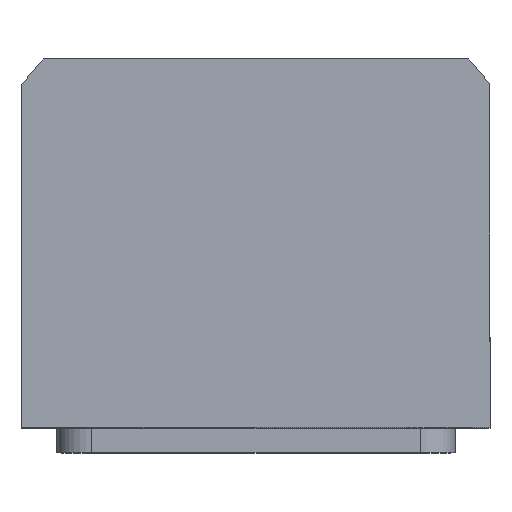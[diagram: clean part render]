
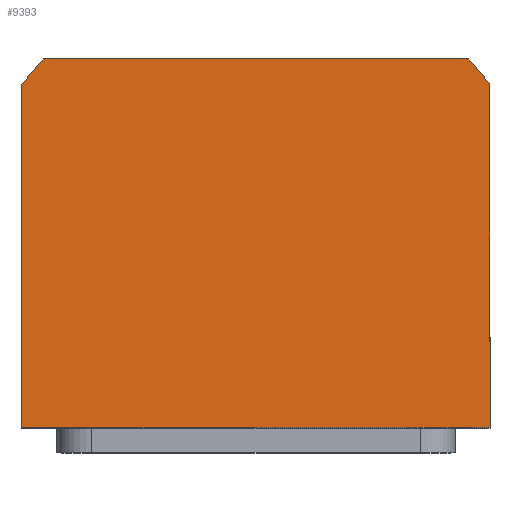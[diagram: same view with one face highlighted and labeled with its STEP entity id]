
A CAD part, top view. The second image highlights one B-rep face of the part: STEP entity #9393.
In plain terms, the highlighted planar face has unit normal (0, 0, 1).
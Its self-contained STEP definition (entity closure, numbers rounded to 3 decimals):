
#778 = ORIENTED_EDGE ( 'NONE', *, *, #12747, .T. ) ;
#911 = VERTEX_POINT ( 'NONE', #6173 ) ;
#2151 = DIRECTION ( 'NONE',  ( 0., 0., 1. ) ) ;
#3098 = VECTOR ( 'NONE', #8332, 1000. ) ;
#3256 = CIRCLE ( 'NONE', #12980, 58.5 ) ;
#3666 = VECTOR ( 'NONE', #12694, 1000. ) ;
#3951 = EDGE_CURVE ( 'NONE', #11850, #11759, #7306, .T. ) ;
#4274 = VERTEX_POINT ( 'NONE', #14965 ) ;
#4953 = ORIENTED_EDGE ( 'NONE', *, *, #5978, .T. ) ;
#5099 = CARTESIAN_POINT ( 'NONE',  ( 0., 0., 57.5 ) ) ;
#5206 = AXIS2_PLACEMENT_3D ( 'NONE', #5099, #8481, #9557 ) ;
#5297 = CARTESIAN_POINT ( 'NONE',  ( 0., 0., 57.5 ) ) ;
#5712 = LINE ( 'NONE', #6369, #14628 ) ;
#5931 = CARTESIAN_POINT ( 'NONE',  ( -42.688, 40., 57.5 ) ) ;
#5978 = EDGE_CURVE ( 'NONE', #911, #6077, #3256, .T. ) ;
#6077 = VERTEX_POINT ( 'NONE', #10140 ) ;
#6173 = CARTESIAN_POINT ( 'NONE',  ( -42.688, 40., 57.5 ) ) ;
#6175 = DIRECTION ( 'NONE',  ( 1., 0., 0. ) ) ;
#6220 = VECTOR ( 'NONE', #11602, 1000. ) ;
#6369 = CARTESIAN_POINT ( 'NONE',  ( 47., -34., 57.5 ) ) ;
#6493 = DIRECTION ( 'NONE',  ( 0., 0., 1. ) ) ;
#6587 = LINE ( 'NONE', #6827, #6220 ) ;
#6743 = CARTESIAN_POINT ( 'NONE',  ( 0., 0., 57.5 ) ) ;
#6827 = CARTESIAN_POINT ( 'NONE',  ( 47., 34.832, 57.5 ) ) ;
#7197 = EDGE_LOOP ( 'NONE', ( #11604, #12943, #11768, #778, #4953, #8426 ) ) ;
#7306 = CIRCLE ( 'NONE', #15200, 58.5 ) ;
#7457 = DIRECTION ( 'NONE',  ( 1., 0., 0. ) ) ;
#8122 = CARTESIAN_POINT ( 'NONE',  ( -47., -34., 57.5 ) ) ;
#8332 = DIRECTION ( 'NONE',  ( -1., 0., 0. ) ) ;
#8426 = ORIENTED_EDGE ( 'NONE', *, *, #13358, .T. ) ;
#8481 = DIRECTION ( 'NONE',  ( 0., 0., 1. ) ) ;
#8570 = PLANE ( 'NONE',  #5206 ) ;
#9083 = DIRECTION ( 'NONE',  ( 1., 0., 0. ) ) ;
#9393 = ADVANCED_FACE ( 'NONE', ( #10624 ), #8570, .T. ) ;
#9557 = DIRECTION ( 'NONE',  ( 1., 0., 0. ) ) ;
#10054 = LINE ( 'NONE', #5931, #3098 ) ;
#10140 = CARTESIAN_POINT ( 'NONE',  ( -47., 34.832, 57.5 ) ) ;
#10624 = FACE_OUTER_BOUND ( 'NONE', #7197, .T. ) ;
#10877 = VERTEX_POINT ( 'NONE', #14064 ) ;
#10964 = LINE ( 'NONE', #8122, #3666 ) ;
#11602 = DIRECTION ( 'NONE',  ( 0., 1., 0. ) ) ;
#11604 = ORIENTED_EDGE ( 'NONE', *, *, #11739, .T. ) ;
#11739 = EDGE_CURVE ( 'NONE', #10877, #4274, #5712, .T. ) ;
#11759 = VERTEX_POINT ( 'NONE', #14318 ) ;
#11768 = ORIENTED_EDGE ( 'NONE', *, *, #3951, .T. ) ;
#11850 = VERTEX_POINT ( 'NONE', #13257 ) ;
#12694 = DIRECTION ( 'NONE',  ( 0., -1., 0. ) ) ;
#12747 = EDGE_CURVE ( 'NONE', #11759, #911, #10054, .T. ) ;
#12943 = ORIENTED_EDGE ( 'NONE', *, *, #13985, .T. ) ;
#12980 = AXIS2_PLACEMENT_3D ( 'NONE', #5297, #6493, #7457 ) ;
#13257 = CARTESIAN_POINT ( 'NONE',  ( 47., 34.832, 57.5 ) ) ;
#13358 = EDGE_CURVE ( 'NONE', #6077, #10877, #10964, .T. ) ;
#13985 = EDGE_CURVE ( 'NONE', #4274, #11850, #6587, .T. ) ;
#14064 = CARTESIAN_POINT ( 'NONE',  ( -47., -34., 57.5 ) ) ;
#14318 = CARTESIAN_POINT ( 'NONE',  ( 42.688, 40., 57.5 ) ) ;
#14628 = VECTOR ( 'NONE', #6175, 1000. ) ;
#14965 = CARTESIAN_POINT ( 'NONE',  ( 47., -34., 57.5 ) ) ;
#15200 = AXIS2_PLACEMENT_3D ( 'NONE', #6743, #2151, #9083 ) ;
